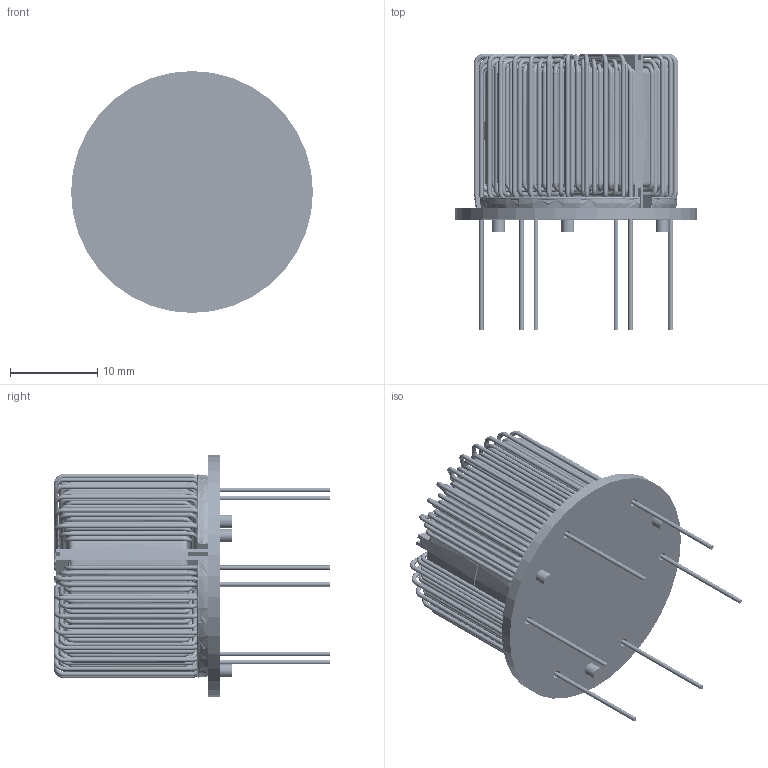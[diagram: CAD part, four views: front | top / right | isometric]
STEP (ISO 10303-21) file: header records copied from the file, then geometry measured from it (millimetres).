
FILE_DESCRIPTION (( 'STEP AP203' ), '1' );
FILE_NAME ('TPF-114U-B02A.STEP', '2020-07-14T11:48:38', ( '' ), ( '' ), 'SwSTEP 2.0', 'SolidWorks 2015', '' );
FILE_SCHEMA (( 'CONFIG_CONTROL_DESIGN' ));
Length unit declared in the file: millimetre
Products named in the file (6): TPF-114U-B02A-FRAME; TPF-114U-B02A-CORE; TPF-114U-B02A-COIL; TPF-114U-B02A-SILICON; TPF-114U-B02A-SPACER; TPF-114U-B02A
Assembly tree (5 placements, depth 2):
  TPF-114U-B02A
    TPF-114U-B02A-FRAME
    TPF-114U-B02A-CORE
    TPF-114U-B02A-COIL
    TPF-114U-B02A-SILICON
    TPF-114U-B02A-SPACER
Bounding box: 27.8 x 31.75 x 27.8 mm (x, y, z)
Volume: 5289.1 mm3; surface area: 12688.6 mm2
Topology: 18 solids, 18 shells, 2174 faces, 6389 edges, 4254 vertices
Faces by surface type: cylinder 1081, torus 973, plane 90, bspline 30
Entity records: 78612 total; most frequent: CARTESIAN_POINT 15597, DIRECTION 15506, ORIENTED_EDGE 12778, AXIS2_PLACEMENT_3D 7145, EDGE_CURVE 6389, CIRCLE 4993, VERTEX_POINT 4254, EDGE_LOOP 2191
